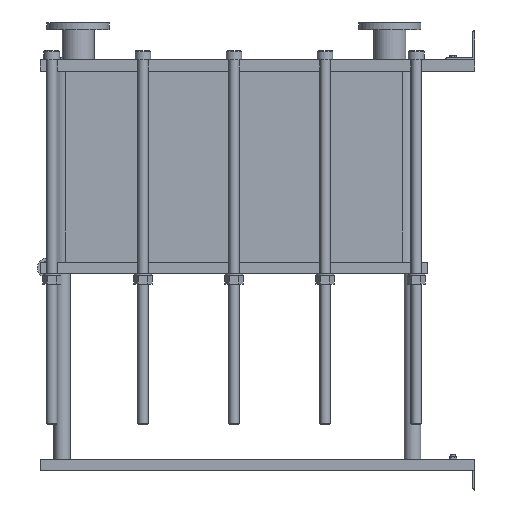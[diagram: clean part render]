
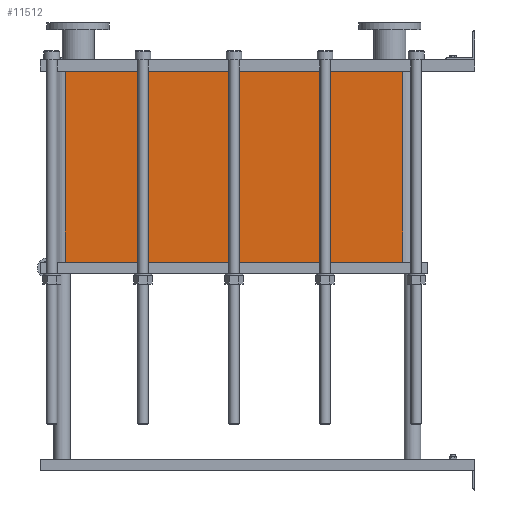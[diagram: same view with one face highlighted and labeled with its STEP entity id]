
A CAD part, left-side view. The second image highlights one B-rep face of the part: STEP entity #11512.
In plain terms, the highlighted planar face has unit normal (-1, 0, 0).
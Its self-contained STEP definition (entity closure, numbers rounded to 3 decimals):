
#1129=LINE('',#23232,#2102);
#1130=LINE('',#23236,#2103);
#1131=LINE('',#23238,#2104);
#1132=LINE('',#23239,#2105);
#2102=VECTOR('',#15887,10.);
#2103=VECTOR('',#15892,10.);
#2104=VECTOR('',#15893,10.);
#2105=VECTOR('',#15894,10.);
#3267=FACE_OUTER_BOUND('',#4093,.T.);
#4093=EDGE_LOOP('',(#10103,#10104,#10105,#10106));
#5642=VERTEX_POINT('',#23229);
#5643=VERTEX_POINT('',#23231);
#5644=VERTEX_POINT('',#23235);
#5645=VERTEX_POINT('',#23237);
#7159=EDGE_CURVE('',#5643,#5642,#1129,.T.);
#7161=EDGE_CURVE('',#5642,#5644,#1130,.T.);
#7162=EDGE_CURVE('',#5645,#5644,#1131,.T.);
#7163=EDGE_CURVE('',#5645,#5643,#1132,.T.);
#10103=ORIENTED_EDGE('',*,*,#7161,.T.);
#10104=ORIENTED_EDGE('',*,*,#7162,.F.);
#10105=ORIENTED_EDGE('',*,*,#7163,.T.);
#10106=ORIENTED_EDGE('',*,*,#7159,.T.);
#10857=PLANE('',#12751);
#11512=ADVANCED_FACE('',(#3267),#10857,.T.);
#12751=AXIS2_PLACEMENT_3D('',#23234,#15890,#15891);
#15887=DIRECTION('',(0.,0.,-1.));
#15890=DIRECTION('center_axis',(-1.,0.,0.));
#15891=DIRECTION('ref_axis',(0.,1.,0.));
#15892=DIRECTION('',(0.,-1.,0.));
#15893=DIRECTION('',(0.,0.,-1.));
#15894=DIRECTION('',(0.,1.,0.));
#23229=CARTESIAN_POINT('',(-200.,1414.,-658.95));
#23231=CARTESIAN_POINT('',(-200.,1414.,0.));
#23232=CARTESIAN_POINT('',(-200.,1414.,0.));
#23234=CARTESIAN_POINT('Origin',(-200.,248.,0.));
#23235=CARTESIAN_POINT('',(-200.,248.,-658.95));
#23236=CARTESIAN_POINT('',(-200.,539.5,-658.95));
#23237=CARTESIAN_POINT('',(-200.,248.,0.));
#23238=CARTESIAN_POINT('',(-200.,248.,0.));
#23239=CARTESIAN_POINT('',(-200.,248.,0.));
